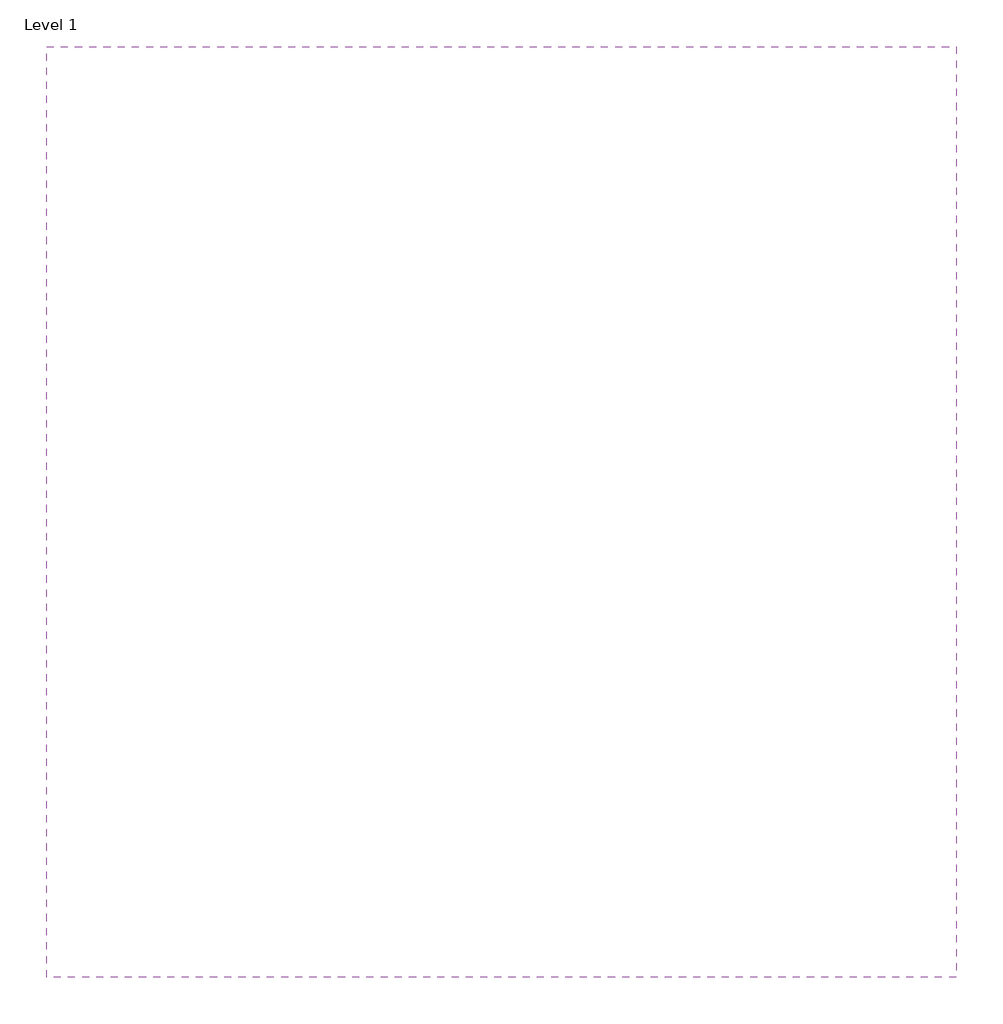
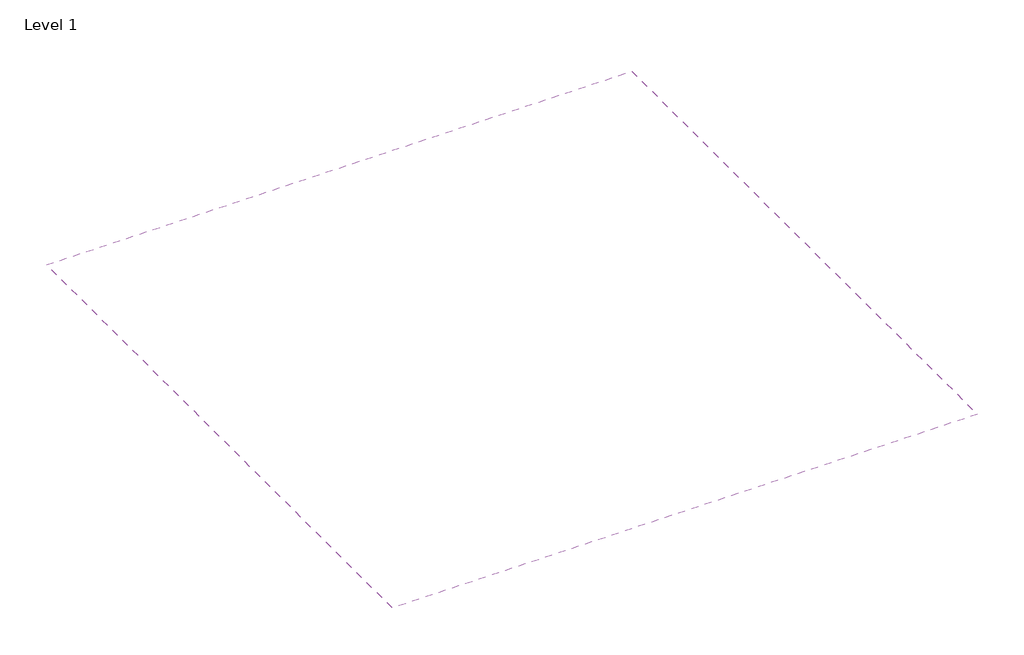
# One storey, incomplete: 1 covering.
"""IFC4 building model written with IfcOpenShell, lengths in millimetres."""

from ifc_helpers import new_model, si_unit, frame, origin, place, context, project, spatial, polyline, outline, extrude, element, save

model = new_model("IFC4")

# Units and contexts
model_context = context("Model", 3, world=origin())
ifc_project = project(units=[si_unit("LENGTHUNIT", "METRE", prefix="MILLI")], contexts=[model_context])

# Site, building, storey
site = spatial("IfcSite", under=ifc_project)
building = spatial("IfcBuilding", under=site)
storey = spatial("IfcBuildingStorey", under=building, Name="Level 1", Elevation=0.0)

# Covering
placement = place(None, origin())
element("IfcCovering", 1, ObjectType="Plain", at=placement, inside=storey, context=model_context, shape_type="SweptSolid", body=[
    extrude(outline(polyline([(-2609.1447554, 3100.8443287), (-1329.1447554, 3100.8443287), (-1329.1447554, 1790.8443287), (-2609.1447554, 1790.8443287), (-2609.1447554, 3100.8443287)]), holes=[polyline([(-1712.107857, 2783.0856817), (-2300.1128037, 2783.0856817), (-2300.1128037, 2199.0856605), (-1712.107857, 2199.0856605), (-1712.107857, 2783.0856817)])]), frame((0.0, 0.0, 2600.0), z_axis=(0.0, 0.0, 1.0), x_axis=(1.0, 0.0, 0.0)), (0.0, 0.0, 1.0), 57.0),
])

save(model, "model.ifc")
